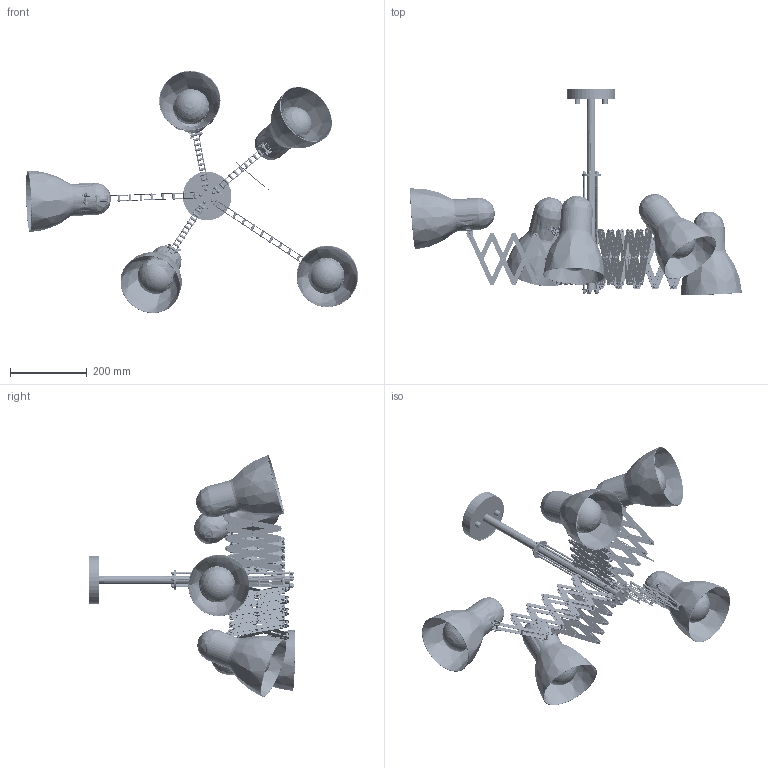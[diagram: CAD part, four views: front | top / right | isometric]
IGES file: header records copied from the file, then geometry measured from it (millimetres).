
Start section: SolidWorks IGES file using analytic representation for surfaces
Global section: file name: E:\_DESIGN\Harmony\5\Harmony 5_6871.IGS; native system: SolidWorks 2016; preprocessor: SolidWorks 2016; author: Asia; date: 160707.132020; units: millimetre
Bounding box: 867.74 x 539.95 x 632.7 mm (x, y, z)
Surface area: 1786595.2 mm2 (no closed solid volume)
Topology: 0 solids, 0 shells, 8229 faces, 134127 edges, 133802 vertices
Faces by surface type: revolution 4312, bspline 3917
